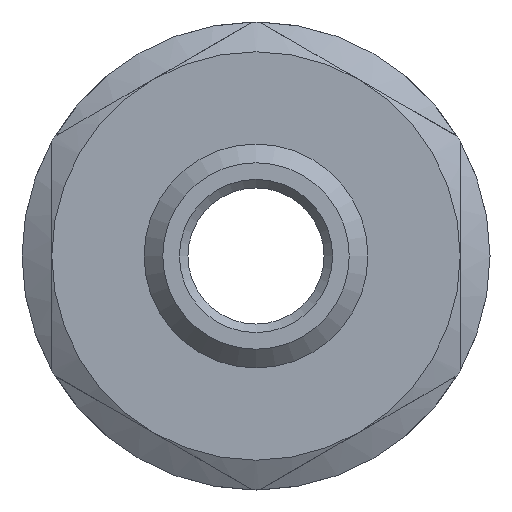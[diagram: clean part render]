
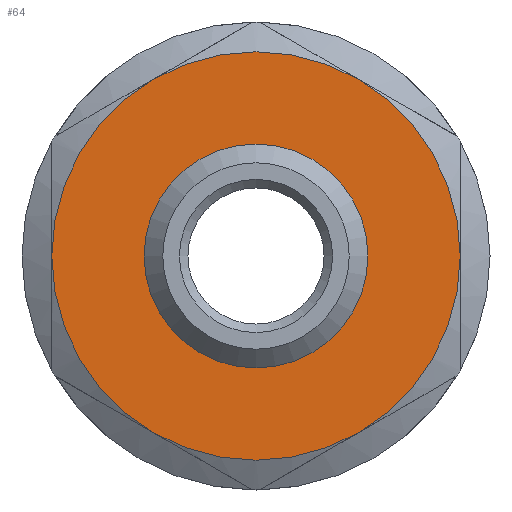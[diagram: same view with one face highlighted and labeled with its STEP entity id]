
A CAD part, front view. The second image highlights one B-rep face of the part: STEP entity #64.
In plain terms, the highlighted planar face has unit normal (0, -1, 0).
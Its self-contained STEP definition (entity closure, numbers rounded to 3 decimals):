
#64=ADVANCED_FACE('',(#224,#226),#228,.F.);
#224=FACE_BOUND('',#225,.T.);
#225=EDGE_LOOP('',(#368));
#226=FACE_BOUND('',#227,.T.);
#227=EDGE_LOOP('',(#369));
#228=PLANE('',#229);
#229=AXIS2_PLACEMENT_3D('',#230,#231,#232);
#230=CARTESIAN_POINT('',(0.,-10.,0.));
#231=DIRECTION('',(0.,1.,0.));
#232=DIRECTION('',(-1.,0.,0.));
#368=ORIENTED_EDGE('',*,*,#422,.T.);
#369=ORIENTED_EDGE('',*,*,#415,.F.);
#415=EDGE_CURVE('',#501,#501,#502,.T.);
#422=EDGE_CURVE('',#509,#509,#511,.F.);
#501=VERTEX_POINT('',#683);
#502=CIRCLE('',#684,6.579);
#509=VERTEX_POINT('',#861);
#511=CIRCLE('',#896,12.);
#683=CARTESIAN_POINT('',(6.579,-10.,0.));
#684=AXIS2_PLACEMENT_3D('',#685,#686,#687);
#685=CARTESIAN_POINT('',(0.,-10.,0.));
#686=DIRECTION('',(0.,-1.,0.));
#687=DIRECTION('',(1.,0.,0.));
#861=CARTESIAN_POINT('',(12.,-10.,0.));
#896=AXIS2_PLACEMENT_3D('',#897,#898,#899);
#897=CARTESIAN_POINT('',(0.,-10.,0.));
#898=DIRECTION('',(0.,1.,0.));
#899=DIRECTION('',(1.,0.,0.));
